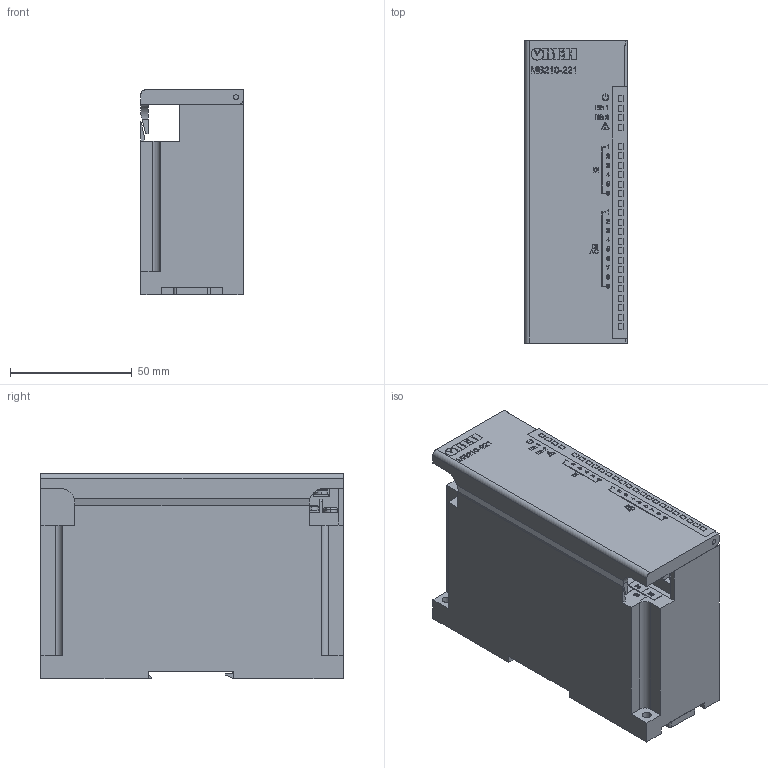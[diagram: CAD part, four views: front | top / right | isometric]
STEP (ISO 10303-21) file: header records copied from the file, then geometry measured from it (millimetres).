
FILE_DESCRIPTION (( 'STEP AP214' ), '1' );
FILE_NAME ('3D 斁麧錪 斨210-221.STEP', '2020-10-21T06:35:10', ( '' ), ( '' ), 'SwSTEP 2.0', 'SolidWorks 2015', '' );
FILE_SCHEMA (( 'AUTOMOTIVE_DESIGN' ));
Length unit declared in the file: millimetre
Products named in the file (9): 咈斀霠罻_00; Êðûøêà_êëåììíàÿ ÌÂ210_00; micro usb b; Ethernet; Ðîçåòêà ÏËÊ210; 扻豵鵨 斨210-221_00; Êëåììíèê 2çåë; Ôèêñàòîð ÏËÊ210; 3D 斁麧錪 斨210-221
Assembly tree (9 placements, depth 2):
  3D 斁麧錪 斨210-221
    扻豵鵨 斨210-221_00
    Ethernet  x2
    Êëåììíèê 2çåë
    Ôèêñàòîð ÏËÊ210
    micro usb b
    Ðîçåòêà ÏËÊ210
    Êðûøêà_êëåììíàÿ ÌÂ210_00
    咈斀霠罻_00
Bounding box: 42 x 124.01 x 84.2 mm (x, y, z)
Volume: 370058.6 mm3; surface area: 79473.7 mm2
Topology: 40 solids, 40 shells, 7370 faces, 21036 edges, 14034 vertices
Faces by surface type: plane 7056, cylinder 165, torus 87, cone 62
Entity records: 310663 total; most frequent: CARTESIAN_POINT 43515, ORIENTED_EDGE 41832, DIRECTION 35917, EDGE_CURVE 20916, VECTOR 19877, LINE 19877, VERTEX_POINT 13954, AXIS2_PLACEMENT_3D 8020
